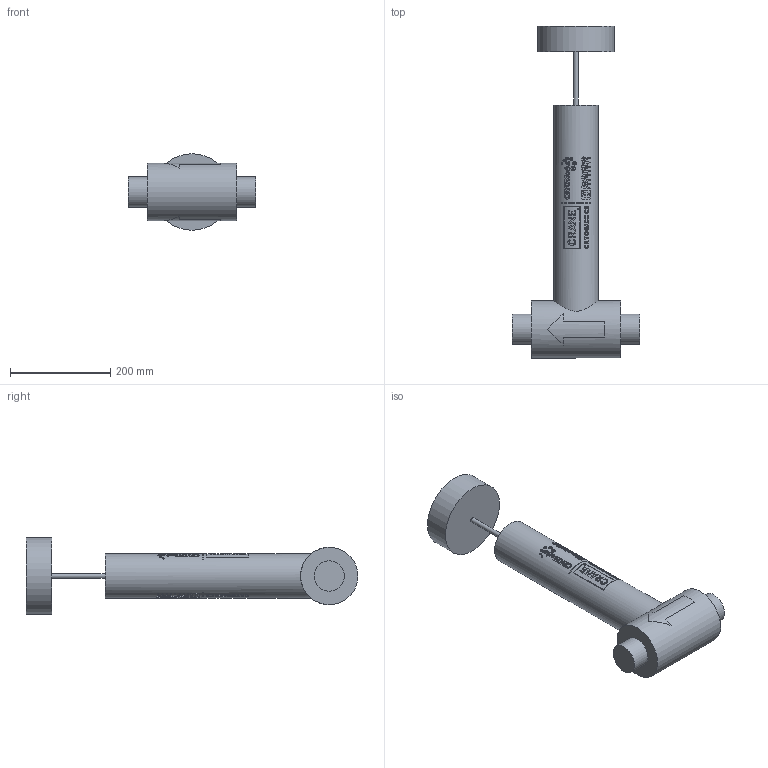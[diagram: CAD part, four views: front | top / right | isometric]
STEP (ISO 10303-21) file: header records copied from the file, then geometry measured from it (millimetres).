
FILE_DESCRIPTION (( 'STEP AP203' ), '1' );
FILE_NAME ('2in T-Pattern Manual TF Valve.step', '2025-12-17T20:08:43', ( '' ), ( '' ), 'SwSTEP 2.0', 'SolidWorks 2023', '' );
FILE_SCHEMA (( 'CONFIG_CONTROL_DESIGN' ));
Products named in the file (1): 2in T-Pattern Manual TF Valve
Bounding box: 254 x 661.67 x 152.4 mm (x, y, z)
Volume: 5413140.4 mm3; surface area: 287967.1 mm2
Topology: 1 solids, 1 shells, 1155 faces, 2971 edges, 1985 vertices
Faces by surface type: plane 743, cylinder 306, bspline 106
Full cylindrical faces by diameter (mm): 1.195 x2, 1.309 x2, 1.422 x2, 1.631 x2, 1.842 x2, 2.373 x2, 2.456 x2, 2.727 x2, 2.906 x2, 3.046 x2, 3.207 x2, 3.658 x2, 4.941 x2, 6.104 x2, 7.386 x2, 8.599 x2, 9.525 x1, 60.325 x2, 88.9 x1, 114.3 x1, 152.4 x1
Entity records: 49699 total; most frequent: CARTESIAN_POINT 24215, ORIENTED_EDGE 5812, DIRECTION 4334, EDGE_CURVE 2906, VERTEX_POINT 1978, VECTOR 1536, LINE 1536, AXIS2_PLACEMENT_3D 1399
